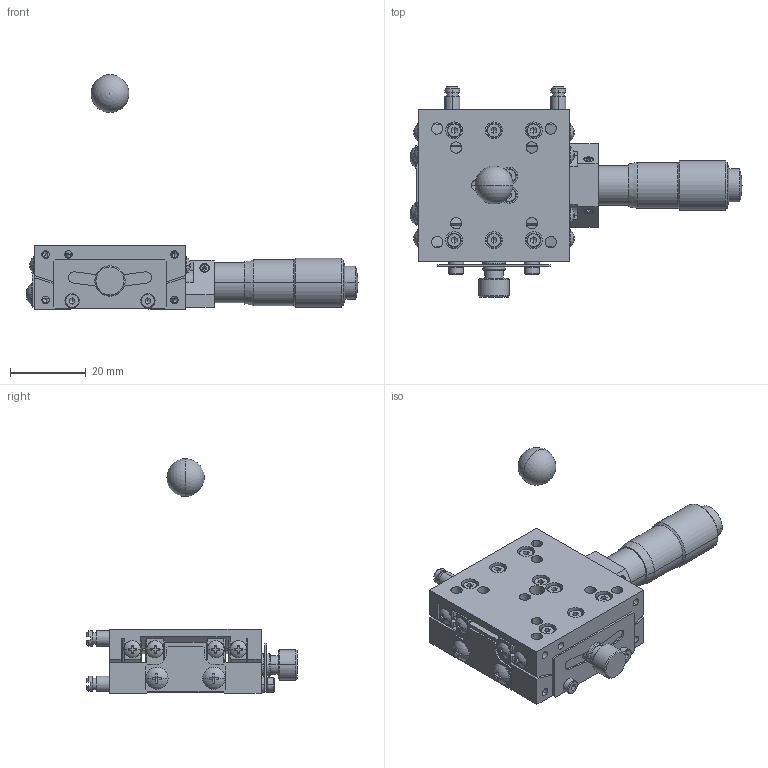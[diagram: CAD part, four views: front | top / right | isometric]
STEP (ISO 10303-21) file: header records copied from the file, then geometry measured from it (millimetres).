
FILE_DESCRIPTION (( 'STEP AP203' ), '1' );
FILE_NAME ('ST04A-C1T-R.STEP', '2010-01-06T04:52:28', ( ' ' ), ( ' ' ), 'SwSTEP 2.0', 'SolidWorks 2009', '' );
FILE_SCHEMA (( 'CONFIG_CONTROL_DESIGN' ));
Length unit declared in the file: millimetre
Products named in the file (7): DP002890-1020-00-Part-1-1; ST04A-C1T-R; DP002890-1020-00-1; DP002890-1010-00-1; DP002890-1010-00-Part-1-1; ST04A-C1T-R.sldasm-Part-1; MICROMETERHEAD(MHS4-13)spindle-3
Assembly tree (6 placements, depth 3):
  ST04A-C1T-R
    DP002890-1020-00-1
      DP002890-1020-00-Part-1-1
    MICROMETERHEAD(MHS4-13)spindle-3
    ST04A-C1T-R.sldasm-Part-1
    DP002890-1010-00-1
      DP002890-1010-00-Part-1-1
Bounding box: 87.68 x 55.5 x 62 mm (x, y, z)
Volume: 28046.1 mm3; surface area: 22808.8 mm2
Topology: 4 solids, 47 shells, 1593 faces, 3802 edges, 2262 vertices
Faces by surface type: plane 691, cylinder 514, cone 354, sphere 26, torus 8
Entity records: 48273 total; most frequent: CARTESIAN_POINT 10563, DIRECTION 8116, ORIENTED_EDGE 7398, EDGE_CURVE 3699, AXIS2_PLACEMENT_3D 3134, VERTEX_POINT 2259, VECTOR 1848, LINE 1848
